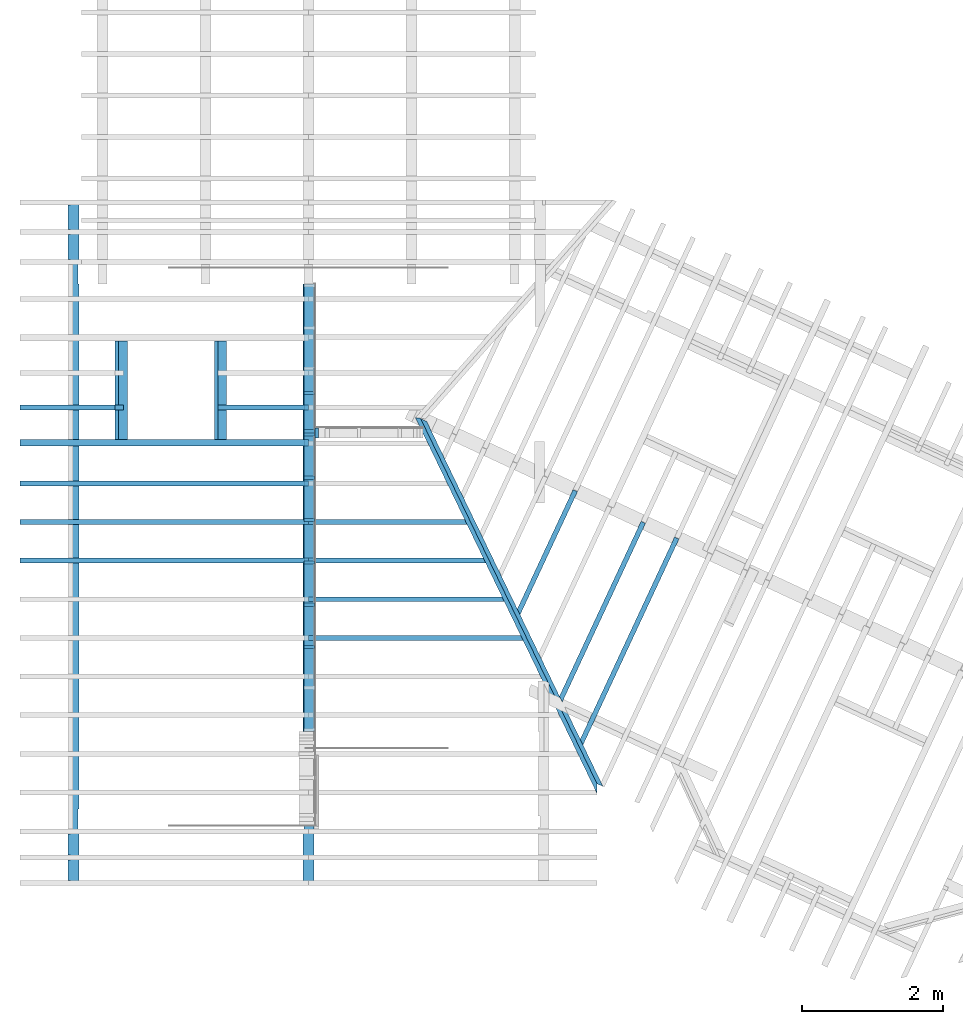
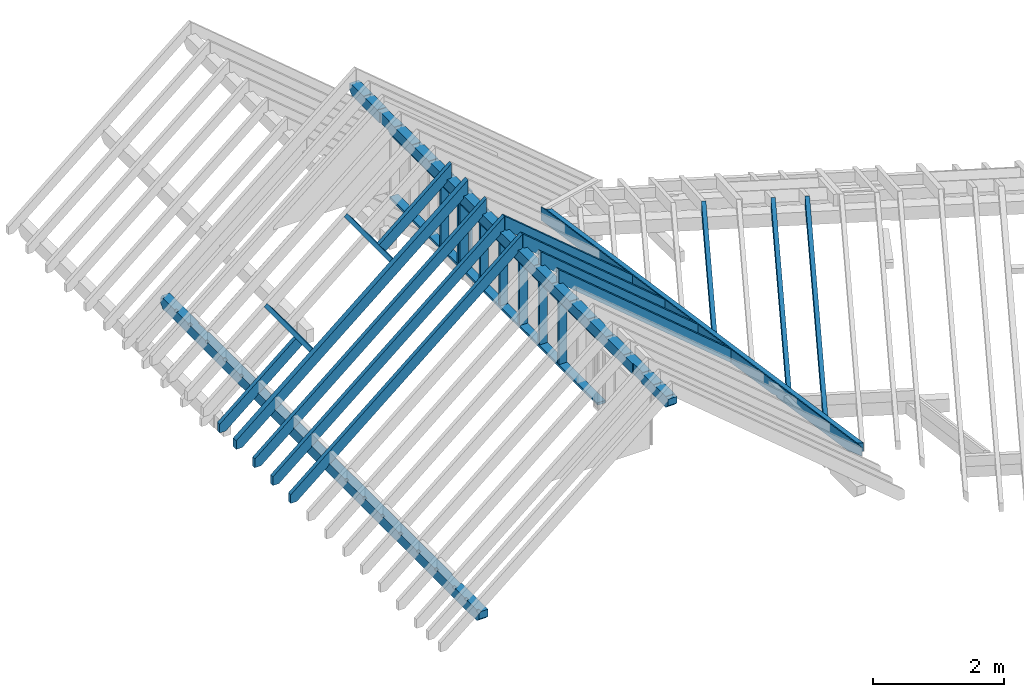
# One storey, part 2 of 11: 29 members.
"""IFC2X3 building model written with IfcOpenShell, lengths in metres."""

import ifcopenshell
import ifcopenshell.guid

model = None  # the IFC model being written
_history = None  # IfcOwnerHistory: only IFC2X3 demands one
_inside = {}  # id of a spatial element -> (the spatial element, [elements in it])
_under = {}  # id of a project, library or spatial element -> (it, [spatial elements below it])
_declared = {}  # id of a project -> (the project, [libraries it declares])
_typed = {}  # id of a type object -> (the type object, [elements of that type])
_made_of = {}  # id of a material, layer set ... -> (it, [elements and type objects made of it])


def new_model(schema):
    """Start an empty IFC model of exactly this schema.

    Asked for "IFC4X3", IfcOpenShell would pick the latest addendum, in which some entities
    have other attributes; the version numbers below select the first issue.
    IFC2X3 requires an IfcOwnerHistory on every rooted entity: one is made here for all.
    """
    global model, _history
    if schema == "IFC4X3":
        model = ifcopenshell.file(schema_version=(4, 3, 0, 0))
    else:
        model = ifcopenshell.file(schema=schema)
    _inside.clear()
    _under.clear()
    _declared.clear()
    _typed.clear()
    _made_of.clear()
    _history = None
    if model.schema == "IFC2X3":
        org = make("IfcOrganization", Name="unknown")
        user = make(
            "IfcPersonAndOrganization",
            ThePerson=make("IfcPerson", FamilyName="unknown"),
            TheOrganization=org,
        )
        app = make(
            "IfcApplication",
            ApplicationDeveloper=org,
            Version="unknown",
            ApplicationFullName="unknown",
            ApplicationIdentifier="unknown",
        )
        _history = make(
            "IfcOwnerHistory",
            OwningUser=user,
            OwningApplication=app,
            ChangeAction="ADDED",
            CreationDate=0,
        )
    return model


def make(cls, **values):
    """One entity of the class cls with the attributes given. An attribute that is None is left unset."""
    return model.create_entity(
        cls, **{name: value for name, value in values.items() if value is not None}
    )


def rooted(cls, **values):
    """An entity with a GlobalId (a new one), such as an element, a storey or a relation."""
    return make(cls, GlobalId=ifcopenshell.guid.new(), OwnerHistory=_history, **values)


def si_unit(unit_type, name, prefix=None):
    """IfcSIUnit, for example si_unit("LENGTHUNIT", "METRE", prefix="MILLI")."""
    return make("IfcSIUnit", UnitType=unit_type, Prefix=prefix, Name=name)


def assignment(units):
    """IfcUnitAssignment: the units of a project."""
    return None if units is None else make("IfcUnitAssignment", Units=units)


def point(xyz):
    """IfcCartesianPoint."""
    return None if xyz is None else make("IfcCartesianPoint", Coordinates=xyz)


def direction(xyz):
    """IfcDirection."""
    return None if xyz is None else make("IfcDirection", DirectionRatios=xyz)


def frame(location, z_axis=None, x_axis=None):
    """IfcAxis2Placement3D, a coordinate frame: its origin and axes. An axis left out is left unset."""
    return make(
        "IfcAxis2Placement3D",
        Location=point(location),
        Axis=direction(z_axis),
        RefDirection=direction(x_axis),
    )


def origin_with_axes():
    """The frame at (0, 0, 0) with the z axis (0, 0, 1) and the x axis (1, 0, 0) written out."""
    return frame((0.0, 0.0, 0.0), z_axis=(0.0, 0.0, 1.0), x_axis=(1.0, 0.0, 0.0))


def place(relative_to, where):
    """IfcLocalPlacement: puts the frame where relative to a parent placement (None: the world)."""
    return make(
        "IfcLocalPlacement", PlacementRelTo=relative_to, RelativePlacement=where
    )


def context(
    kind, dimensions, precision=None, world=None, true_north=None, identifier=None
):
    """IfcGeometricRepresentationContext, for example the 3D "Model" context."""
    return make(
        "IfcGeometricRepresentationContext",
        ContextIdentifier=identifier,
        ContextType=kind,
        CoordinateSpaceDimension=dimensions,
        Precision=precision,
        WorldCoordinateSystem=world,
        TrueNorth=true_north,
    )


def subcontext(parent, identifier, kind, view, scale=None):
    """IfcGeometricRepresentationSubContext, for example "Body" below "Model"."""
    return make(
        "IfcGeometricRepresentationSubContext",
        ContextIdentifier=identifier,
        ContextType=kind,
        ParentContext=parent,
        TargetScale=scale,
        TargetView=view,
    )


def project(units=None, contexts=None):
    """IfcProject with its units and contexts."""
    return rooted(
        "IfcProject",
        Name="project",
        RepresentationContexts=contexts,
        UnitsInContext=assignment(units),
    )


def spatial(cls, under=None, at=None, **own):
    """A site, building, storey or space (cls), placed at a placement, below another one or the project."""
    s = rooted(cls, ObjectPlacement=at, **own)
    if under is not None:
        _under.setdefault(under.id(), (under, []))[1].append(s)
    return s


def faces_of(points, faces, orient=None, outer=None):
    """IfcFace entities. A face is a list of loops; a loop is a list of indices into points, from 0.

    orient and outer hold one flag for each loop. By default every Orientation is true, the
    first loop of a face is its IfcFaceOuterBound and the others are IfcFaceBound.
    """
    made = []
    for i, loops in enumerate(faces):
        bounds = []
        for j, loop in enumerate(loops):
            is_outer = j == 0 if outer is None else outer[i][j]
            bounds.append(
                make(
                    "IfcFaceOuterBound" if is_outer else "IfcFaceBound",
                    Bound=make("IfcPolyLoop", Polygon=[points[k] for k in loop]),
                    Orientation=True if orient is None else orient[i][j],
                )
            )
        made.append(make("IfcFace", Bounds=bounds))
    return made


def faceted_brep(points, faces, orient=None, outer=None, voids=None):
    """IfcFacetedBrep: a solid bounded by flat faces; with voids (closed shells), ...WithVoids."""
    shared = [point(p) for p in points]
    hull = make("IfcClosedShell", CfsFaces=faces_of(shared, faces, orient, outer))
    if voids is None:
        return make("IfcFacetedBrep", Outer=hull)
    return make(
        "IfcFacetedBrepWithVoids",
        Outer=hull,
        Voids=[
            make(cls, CfsFaces=faces_of(shared, fs, o, b)) for cls, fs, o, b in voids
        ],
    )


def shape(context_of_items, identifier, shape_type, items):
    """IfcShapeRepresentation: the items that make up one representation, for example the "Body"."""
    return make(
        "IfcShapeRepresentation",
        ContextOfItems=context_of_items,
        RepresentationIdentifier=identifier,
        RepresentationType=shape_type,
        Items=items,
    )


def material(Name=None, Category=None):
    """IfcMaterial."""
    return make("IfcMaterial", Name=Name, Category=Category)


def made_of(thing, what):
    """Note that an element or type object is made of a material, layer set ...; save() writes the relation."""
    if what is not None:
        _made_of.setdefault(what.id(), (what, []))[1].append(thing)
    return thing


def element(
    cls,
    number,
    at=None,
    inside=None,
    cuts=None,
    type_object=None,
    material=None,
    context=None,
    identifier="Body",
    shape_type=None,
    held_by="IfcProductDefinitionShape",
    body=None,
    shapes=None,
    **own,
):
    """One element of the class cls, such as IfcWall. Its Tag is "e" and its number.

    at: its placement. inside: the storey or other place that contains it. cuts: it is an
    opening in that element (IfcRelVoidsElement). A single representation is given by context,
    identifier, shape_type and body (its items); several are given by shapes. held_by: the class
    of the entity that holds the representations. save() writes the other relations.
    """
    e = rooted(cls, Tag="e%d" % number, ObjectPlacement=at, **own)
    if body is not None:
        shapes = [shape(context, identifier, shape_type, body)]
    if shapes is not None:
        e.Representation = make(held_by, Representations=shapes)
    if inside is not None:
        _inside.setdefault(inside.id(), (inside, []))[1].append(e)
    if cuts is not None:
        rooted(
            "IfcRelVoidsElement", RelatingBuildingElement=cuts, RelatedOpeningElement=e
        )
    if type_object is not None:
        _typed.setdefault(type_object.id(), (type_object, []))[1].append(e)
    return made_of(e, material)


def aggregate(whole, parts):
    """IfcRelAggregates: a whole, such as a stair, and the parts it consists of."""
    return rooted("IfcRelAggregates", RelatingObject=whole, RelatedObjects=parts)


def save(model, path):
    """Write the relations noted so far, then the file.

    IfcRelAggregates (storeys below a building ...), IfcRelContainedInSpatialStructure (elements
    in a storey), IfcRelDefinesByType, IfcRelAssociatesMaterial and IfcRelDeclares: one each for
    every whole, place, type object, material and project.
    """
    for whole, parts in _under.values():
        aggregate(whole, parts)
    for where, things in _inside.values():
        rooted(
            "IfcRelContainedInSpatialStructure",
            RelatedElements=things,
            RelatingStructure=where,
        )
    for kind, things in _typed.values():
        rooted("IfcRelDefinesByType", RelatedObjects=things, RelatingType=kind)
    for what, things in _made_of.values():
        rooted("IfcRelAssociatesMaterial", RelatedObjects=things, RelatingMaterial=what)
    for by, libraries in _declared.values():
        rooted("IfcRelDeclares", RelatingContext=by, RelatedDefinitions=libraries)
    model.write(path)


model = new_model("IFC2X3")

# Units and contexts
model_context = context("Model", 3, precision=1e-06, world=origin_with_axes(), true_north=direction((0.0, 1.0, 0.0)))
body_context = subcontext(model_context, "Body", "Model", "MODEL_VIEW")
ifc_project = project(units=[si_unit("LENGTHUNIT", "METRE"), si_unit("AREAUNIT", "SQUARE_METRE"), si_unit("VOLUMEUNIT", "CUBIC_METRE"), si_unit("PLANEANGLEUNIT", "RADIAN")], contexts=[model_context])

# Site, building, storey
site_placement = place(None, origin_with_axes())
site = spatial("IfcSite", under=ifc_project, at=site_placement, CompositionType="ELEMENT")
building_placement = place(site_placement, origin_with_axes())
building = spatial("IfcBuilding", under=site, at=building_placement, Name="Building 1", CompositionType="ELEMENT")
storey_placement = place(building_placement, origin_with_axes())
storey = spatial("IfcBuildingStorey", under=building, at=storey_placement, Name="Comble et couverture", CompositionType="ELEMENT", Elevation=0.0)

# Members
ifc_material_1 = material(Name="NH II")
member_1_placement = place(storey_placement, frame((7.1531593, 4.790305, 5.8872191), z_axis=(-0.2113091, -0.4531539, 0.8660254), x_axis=(-0.3659982, -0.7848856, -0.5)))
element("IfcMember", 1, at=member_1_placement, inside=storey, material=ifc_material_1, Name="Chevron", context=body_context, shape_type="Brep", body=[
    faceted_brep([(0.1495072, 0.035, -0.096), (0.2044294, 0.035, -0.0643158), (0.2044294, -0.035, -0.0643158), (0.1495072, -0.035, -0.096), (0.2227223, 0.035, -0.096), (0.2227223, -0.035, -0.096), (2.2658431, -0.035, -0.096), (2.1549919, -0.035, 0.096), (0.0, -0.035, 0.096), (0.1108513, -0.035, -0.096), (2.3317987, 0.035, -0.096), (0.1108513, 0.035, -0.096), (0.0, 0.035, 0.096), (2.2209475, 0.035, 0.096)], [[[0, 1, 2, 3]], [[1, 4, 5, 2]], [[3, 2, 5, 6, 7, 8, 9]], [[5, 4, 10, 6]], [[0, 3, 9, 11]], [[12, 11, 9, 8]], [[1, 0, 11, 12, 13, 10, 4]], [[6, 10, 13, 7]], [[12, 8, 7, 13]]]),
])
member_2_placement = place(storey_placement, frame((0.025, 8.8681251, 4.1228151), z_axis=(0.0, 0.0, 1.0), x_axis=(0.0, -1.0, 0.0)))
element("IfcMember", 2, at=member_2_placement, inside=storey, material=ifc_material_1, Name="Panne", context=body_context, shape_type="Brep", body=[
    faceted_brep([(3.4845347, -0.0434868, 0.1), (3.3925347, -0.0434868, 0.1), (3.3925347, -0.08, 0.0693618), (3.4845347, -0.08, 0.0693618), (3.3925347, -0.08, 0.1), (3.4845347, -0.08, 0.1), (2.9795347, -0.0434868, 0.1), (2.9095347, -0.0434868, 0.1), (2.9095347, -0.08, 0.0693618), (2.9795347, -0.08, 0.0693618), (2.9095347, -0.08, 0.1), (2.9795347, -0.08, 0.1), (2.4855347, -0.08, 0.0693618), (2.4855347, -0.08, 0.1), (2.4855347, -0.0434868, 0.1), (2.4155347, -0.08, 0.1), (2.4155347, -0.08, 0.0693618), (2.4155347, -0.0434868, 0.1), (2.0025347, -0.0434868, 0.1), (1.9105347, -0.0434868, 0.1), (1.9105347, -0.08, 0.0693618), (2.0025347, -0.08, 0.0693618), (1.9105347, -0.08, 0.1), (2.0025347, -0.08, 0.1), (8.9141251, 0.06, -0.1), (8.6341251, 0.06, -0.1), (8.6341251, 0.06, 0.1), (8.9141251, 0.06, 0.1), (1.1941251, 0.06, -0.1), (0.9141251, 0.06, -0.1), (0.9141251, 0.06, 0.1), (1.1941251, 0.06, 0.1), (0.4915626, -0.0434868, 0.1), (0.4215626, -0.0434868, 0.1), (0.4215626, -0.08, 0.0693618), (0.4915626, -0.08, 0.0693618), (0.4215626, -0.08, 0.1), (0.4915626, -0.08, 0.1), (0.0666667, 0.08, -0.1), (0.0666667, -0.08, -0.1), (0.0, -0.08, -0.0333333), (0.0, 0.08, -0.0333333), (0.0, -0.08, 0.0693618), (0.0, -0.0434868, 0.1), (0.0, 0.08, 0.1), (0.07, -0.0434868, 0.1), (0.07, -0.08, 0.0693618), (0.07, -0.08, 0.1), (9.3500626, -0.0434868, 0.1), (9.2800626, -0.0434868, 0.1), (9.2800626, -0.08, 0.0693618), (9.3500626, -0.08, 0.0693618), (9.2800626, -0.08, 0.1), (9.3500626, -0.08, 0.1), (9.715, -0.08, -0.0333333), (9.6483333, -0.08, -0.1), (9.6483333, 0.08, -0.1), (9.715, 0.08, -0.0333333), (9.715, 0.08, 0.1), (9.715, -0.0434868, 0.1), (9.715, -0.08, 0.0693618), (9.645, -0.0434868, 0.1), (9.645, -0.08, 0.0693618), (9.645, -0.08, 0.1), (1.1941251, 0.08, -0.1), (1.1941251, 0.08, 0.1), (0.9141251, 0.08, 0.1), (0.9141251, 0.08, -0.1), (8.6341251, 0.08, -0.1), (8.9141251, 0.08, -0.1), (8.6341251, 0.08, 0.1), (8.9141251, 0.08, 0.1), (3.98113, -0.08, 0.1), (1.4373299, -0.08, 0.1), (1.4373299, -0.08, 0.0693618), (1.3673299, -0.08, 0.0693618), (1.3673299, -0.08, 0.1), (0.9131251, -0.08, 0.1), (0.9131251, -0.08, 0.0693618), (0.8431251, -0.08, 0.0693618), (0.8431251, -0.08, 0.1), (8.9851251, -0.08, 0.1), (8.9851251, -0.08, 0.0693618), (8.9151251, -0.08, 0.0693618), (8.9151251, -0.08, 0.1), (8.4347111, -0.08, 0.1), (8.4347111, -0.08, 0.0693618), (8.3647111, -0.08, 0.0693618), (8.3647111, -0.08, 0.1), (7.884297, -0.08, 0.1), (7.884297, -0.08, 0.0693618), (7.814297, -0.08, 0.0693618), (7.814297, -0.08, 0.1), (7.3367017, -0.08, 0.1), (7.3367017, -0.08, 0.0693618), (7.2667017, -0.08, 0.0693618), (7.2667017, -0.08, 0.1), (6.7891064, -0.08, 0.1), (6.7891064, -0.08, 0.0693618), (6.7191064, -0.08, 0.0693618), (6.7191064, -0.08, 0.1), (6.2415111, -0.08, 0.1), (6.2415111, -0.08, 0.0693618), (6.1715111, -0.08, 0.0693618), (6.1715111, -0.08, 0.1), (5.6939158, -0.08, 0.1), (5.6939158, -0.08, 0.0693618), (5.6239158, -0.08, 0.0693618), (5.6239158, -0.08, 0.1), (5.1463205, -0.08, 0.1), (5.1463205, -0.08, 0.0693618), (5.0763205, -0.08, 0.0693618), (5.0763205, -0.08, 0.1), (4.5987253, -0.08, 0.1), (4.5987253, -0.08, 0.0693618), (4.5287253, -0.08, 0.0693618), (4.5287253, -0.08, 0.1), (4.05113, -0.08, 0.1), (4.05113, -0.08, 0.0693618), (3.98113, -0.08, 0.0693618), (0.9131251, -0.0434868, 0.1), (0.8431251, -0.0434868, 0.1), (8.9851251, -0.0434868, 0.1), (8.9151251, -0.0434868, 0.1), (8.4347111, -0.0434868, 0.1), (8.3647111, -0.0434868, 0.1), (7.884297, -0.0434868, 0.1), (7.814297, -0.0434868, 0.1), (1.4373299, -0.0434868, 0.1), (1.3673299, -0.0434868, 0.1), (7.3367017, -0.0434868, 0.1), (7.2667017, -0.0434868, 0.1), (6.7891064, -0.0434868, 0.1), (6.7191064, -0.0434868, 0.1), (6.2415111, -0.0434868, 0.1), (6.1715111, -0.0434868, 0.1), (5.6939158, -0.0434868, 0.1), (5.6239158, -0.0434868, 0.1), (5.1463205, -0.0434868, 0.1), (5.0763205, -0.0434868, 0.1), (4.5987253, -0.0434868, 0.1), (4.5287253, -0.0434868, 0.1), (4.05113, -0.0434868, 0.1), (3.98113, -0.0434868, 0.1)], [[[0, 1, 2, 3]], [[1, 4, 2]], [[5, 0, 3]], [[6, 7, 8, 9]], [[7, 10, 8]], [[11, 6, 9]], [[12, 13, 14]], [[15, 16, 17]], [[16, 12, 14, 17]], [[18, 19, 20, 21]], [[19, 22, 20]], [[23, 18, 21]], [[24, 25, 26, 27]], [[28, 29, 30, 31]], [[32, 33, 34, 35]], [[33, 36, 34]], [[37, 32, 35]], [[38, 39, 40, 41]], [[41, 40, 42, 43, 44]], [[45, 43, 42, 46]], [[47, 45, 46]], [[48, 49, 50, 51]], [[49, 52, 50]], [[53, 48, 51]], [[54, 55, 56, 57]], [[54, 57, 58, 59, 60]], [[59, 61, 62, 60]], [[61, 63, 62]], [[64, 28, 31, 65]], [[66, 30, 29, 67]], [[55, 39, 38, 67, 29, 28, 64, 68, 25, 24, 69, 56]], [[64, 65, 70, 68]], [[69, 24, 27, 71]], [[70, 26, 25, 68]], [[71, 58, 57, 56, 69]], [[72, 5, 3, 2, 4, 11, 9, 8, 10, 13, 12, 16, 15, 23, 21, 20, 22, 73, 74, 75, 76, 77, 78, 79, 80, 37, 35, 34, 36, 47, 46, 42, 40, 39, 55, 54, 60, 62, 63, 53, 51, 50, 52, 81, 82, 83, 84, 85, 86, 87, 88, 89, 90, 91, 92, 93, 94, 95, 96, 97, 98, 99, 100, 101, 102, 103, 104, 105, 106, 107, 108, 109, 110, 111, 112, 113, 114, 115, 116, 117, 118, 119]], [[77, 120, 78]], [[121, 80, 79]], [[120, 121, 79, 78]], [[81, 122, 82]], [[123, 84, 83]], [[122, 123, 83, 82]], [[85, 124, 86]], [[125, 88, 87]], [[124, 125, 87, 86]], [[89, 126, 90]], [[127, 92, 91]], [[126, 127, 91, 90]], [[73, 128, 74]], [[129, 76, 75]], [[128, 129, 75, 74]], [[93, 130, 94]], [[131, 96, 95]], [[130, 131, 95, 94]], [[97, 132, 98]], [[133, 100, 99]], [[132, 133, 99, 98]], [[101, 134, 102]], [[135, 104, 103]], [[134, 135, 103, 102]], [[105, 136, 106]], [[137, 108, 107]], [[136, 137, 107, 106]], [[109, 138, 110]], [[139, 112, 111]], [[138, 139, 111, 110]], [[113, 140, 114]], [[141, 116, 115]], [[140, 141, 115, 114]], [[117, 142, 118]], [[143, 72, 119]], [[142, 143, 119, 118]], [[67, 38, 41, 44, 66]], [[1, 0, 5, 72, 143, 142, 117, 116, 141, 140, 113, 112, 139, 138, 109, 108, 137, 136, 105, 104, 135, 134, 101, 100, 133, 132, 97, 96, 131, 130, 93, 92, 127, 126, 89, 88, 125, 124, 85, 84, 123, 122, 81, 52, 49, 48, 53, 63, 61, 59, 58, 71, 27, 26, 70, 65, 31, 30, 66, 44, 43, 45, 47, 36, 33, 32, 37, 80, 121, 120, 77, 76, 129, 128, 73, 22, 19, 18, 23, 15, 17, 14, 13, 10, 7, 6, 11, 4]]]),
])
member_3_placement = place(storey_placement, frame((3.294711, 3.7568046, 7.2275995), z_axis=(0.6427876, 0.0, 0.7660444), x_axis=(0.7660444, 0.0, -0.6427876)))
element("IfcMember", 3, at=member_3_placement, inside=storey, material=ifc_material_1, Name="Chevron", context=body_context, shape_type="Brep", body=[
    faceted_brep([(0.2078259, 0.035, -0.096), (0.2397786, 0.035, -0.0691884), (0.2397786, -0.035, -0.0691884), (0.2078259, -0.035, -0.096), (0.2622762, 0.035, -0.096), (0.2622762, -0.035, -0.096), (3.4349728, -0.035, -0.096), (3.2738656, -0.035, 0.096), (0.0, -0.035, 0.096), (0.1611071, -0.035, -0.096), (3.3908263, 0.035, -0.096), (0.1611071, 0.035, -0.096), (3.2297192, 0.035, 0.096), (0.0, 0.035, 0.096)], [[[0, 1, 2, 3]], [[1, 4, 5, 2]], [[3, 2, 5, 6, 7, 8, 9]], [[5, 4, 10, 6]], [[0, 3, 9, 11]], [[10, 12, 7, 6]], [[7, 12, 13, 8]], [[1, 0, 11, 13, 12, 10, 4]], [[8, 13, 11, 9]]]),
])
member_4_placement = place(storey_placement, frame((2.1070699, 6.8655905, 6.131688), z_axis=(-0.6427876, 0.0, 0.7660444), x_axis=(0.0, -1.0, 0.0)))
element("IfcMember", 4, at=member_4_placement, inside=storey, material=ifc_material_1, Name="Chevetre", context=body_context, shape_type="Brep", body=[
    faceted_brep([(1.39, 0.035, -0.096), (1.39, 0.035, 0.096), (1.39, -0.035, 0.096), (1.39, -0.035, -0.096), (0.0, 0.035, 0.096), (0.0, 0.035, -0.096), (0.0, -0.035, -0.096), (0.0, -0.035, 0.096)], [[[0, 1, 2, 3]], [[4, 5, 6, 7]], [[3, 6, 5, 0]], [[2, 7, 6, 3]], [[1, 4, 7, 2]], [[0, 5, 4, 1]]]),
])
member_5_placement = place(storey_placement, frame((3.294711, 3.2092093, 7.2275995), z_axis=(0.6427876, 0.0, 0.7660444), x_axis=(0.7660444, 0.0, -0.6427876)))
element("IfcMember", 5, at=member_5_placement, inside=storey, material=ifc_material_1, Name="Chevron", context=body_context, shape_type="Brep", body=[
    faceted_brep([(0.2078259, 0.035, -0.096), (0.2397786, 0.035, -0.0691884), (0.2397786, -0.035, -0.0691884), (0.2078259, -0.035, -0.096), (0.2622762, 0.035, -0.096), (0.2622762, -0.035, -0.096), (3.780321, -0.035, -0.096), (3.6192139, -0.035, 0.096), (0.0, -0.035, 0.096), (0.1611071, -0.035, -0.096), (3.7361746, 0.035, -0.096), (0.1611071, 0.035, -0.096), (3.5750674, 0.035, 0.096), (0.0, 0.035, 0.096)], [[[0, 1, 2, 3]], [[1, 4, 5, 2]], [[3, 2, 5, 6, 7, 8, 9]], [[5, 4, 10, 6]], [[0, 3, 9, 11]], [[10, 12, 7, 6]], [[7, 12, 13, 8]], [[1, 0, 11, 13, 12, 10, 4]], [[8, 13, 11, 9]]]),
])
ifc_material_2 = material(Name="Epicéa C24")
member_6_placement = place(storey_placement, frame((3.3635, 5.5901088, 6.7854713), z_axis=(-1.0, 0.0, 0.0), x_axis=(0.0, 0.0, -1.0)))
element("IfcMember", 6, at=member_6_placement, inside=storey, material=ifc_material_2, Name="Montant", context=body_context, shape_type="Brep", body=[
    faceted_brep([(1.16, -0.0225, -0.0725), (1.16, -0.0225, 0.0725), (0.0, -0.0225, 0.0725), (0.0, -0.0225, -0.0725), (1.16, 0.0225, 0.0725), (0.0, 0.0225, 0.0725), (1.16, 0.0225, -0.0725), (0.0, 0.0225, -0.0725)], [[[0, 1, 2, 3]], [[1, 4, 5, 2]], [[4, 6, 7, 5]], [[6, 0, 3, 7]], [[0, 6, 4, 1]], [[2, 5, 7, 3]]]),
])
member_7_placement = place(storey_placement, frame((8.5916553, 4.1195233, 5.8872902), z_axis=(-0.2113091, -0.4531539, 0.8660254), x_axis=(-0.3659982, -0.7848856, -0.5)))
element("IfcMember", 7, at=member_7_placement, inside=storey, material=ifc_material_1, Name="Chevron", context=body_context, shape_type="Brep", body=[
    faceted_brep([(0.2227223, -0.035, -0.096), (0.2044294, -0.035, -0.0643158), (0.2044294, 0.035, -0.0643158), (0.2227223, 0.035, -0.096), (0.1496929, -0.035, -0.096), (0.1496929, 0.035, -0.096), (0.1108513, -0.035, -0.096), (0.1108513, 0.035, -0.096), (3.8272994, 0.035, -0.096), (3.7613438, -0.035, -0.096), (0.0, 0.035, 0.096), (3.7164481, 0.035, 0.096), (0.0, -0.035, 0.096), (3.6504925, -0.035, 0.096)], [[[0, 1, 2, 3]], [[1, 4, 5, 2]], [[5, 4, 6, 7]], [[0, 3, 8, 9]], [[3, 2, 5, 7, 10, 11, 8]], [[6, 12, 10, 7]], [[10, 12, 13, 11]], [[1, 0, 9, 13, 12, 6, 4]], [[11, 13, 9, 8]]]),
])
member_8_placement = place(storey_placement, frame((3.4131263, 3.7568046, 7.2275995), z_axis=(-0.6427876, 0.0, 0.7660444), x_axis=(-0.7660444, 0.0, -0.6427876)))
element("IfcMember", 8, at=member_8_placement, inside=storey, material=ifc_material_1, Name="Chevron", context=body_context, shape_type="Brep", body=[
    faceted_brep([(5.4354375, -0.035, -0.0265671), (5.4354375, 0.035, -0.0265671), (5.3325915, 0.035, 0.096), (5.3325915, -0.035, 0.096), (5.3526906, 0.035, -0.096), (0.2622762, 0.035, -0.096), (0.2397786, 0.035, -0.0691884), (0.2078259, 0.035, -0.096), (0.1611071, 0.035, -0.096), (0.0, 0.035, 0.096), (5.3526906, -0.035, -0.096), (0.2622762, -0.035, -0.096), (0.0, -0.035, 0.096), (0.1611071, -0.035, -0.096), (0.2078259, -0.035, -0.096), (0.2397786, -0.035, -0.0691884)], [[[0, 1, 2, 3]], [[2, 1, 4, 5, 6, 7, 8, 9]], [[1, 0, 10, 4]], [[4, 10, 11, 5]], [[0, 3, 12, 13, 14, 15, 11, 10]], [[3, 2, 9, 12]], [[7, 6, 15, 14]], [[6, 5, 11, 15]], [[7, 14, 13, 8]], [[13, 12, 9, 8]]]),
])
member_9_placement = place(storey_placement, frame((3.3635, 3.7308281, 6.7854713), z_axis=(1.0, 0.0, 0.0), x_axis=(0.0, 0.0, -1.0)))
element("IfcMember", 9, at=member_9_placement, inside=storey, material=ifc_material_2, Name="Montant", context=body_context, shape_type="Brep", body=[
    faceted_brep([(1.16, -0.0225, -0.0725), (1.16, 0.0225, -0.0725), (1.16, 0.0225, 0.0725), (1.16, -0.0225, 0.0725), (0.0, 0.0225, -0.0725), (0.0, 0.0225, 0.0725), (0.0, -0.0225, -0.0725), (0.0, -0.0225, 0.0725)], [[[0, 1, 2, 3]], [[2, 1, 4, 5]], [[1, 0, 6, 4]], [[0, 3, 7, 6]], [[3, 2, 5, 7]], [[7, 5, 4, 6]]]),
])
member_10_placement = place(storey_placement, frame((3.3635, 5.5451088, 6.7854713), z_axis=(-1.0, 0.0, 0.0), x_axis=(0.0, 0.0, -1.0)))
element("IfcMember", 10, at=member_10_placement, inside=storey, material=ifc_material_2, Name="Montant", context=body_context, shape_type="Brep", body=[
    faceted_brep([(1.16, -0.0225, -0.0725), (1.16, -0.0225, 0.0725), (0.0, -0.0225, 0.0725), (0.0, -0.0225, -0.0725), (1.16, 0.0225, 0.0725), (0.0, 0.0225, 0.0725), (1.16, 0.0225, -0.0725), (0.0, 0.0225, -0.0725)], [[[0, 1, 2, 3]], [[1, 4, 5, 2]], [[4, 6, 7, 5]], [[6, 0, 3, 7]], [[0, 6, 4, 1]], [[2, 5, 7, 3]]]),
])
member_11_placement = place(storey_placement, frame((0.6975481, 6.8655905, 4.9489588), z_axis=(-0.6427876, 0.0, 0.7660444), x_axis=(0.0, -1.0, 0.0)))
element("IfcMember", 11, at=member_11_placement, inside=storey, material=ifc_material_1, Name="Chevetre", context=body_context, shape_type="Brep", body=[
    faceted_brep([(1.39, 0.035, -0.096), (1.39, 0.035, 0.096), (1.39, -0.035, 0.096), (1.39, -0.035, -0.096), (0.0, 0.035, 0.096), (0.0, 0.035, -0.096), (0.0, -0.035, -0.096), (0.0, -0.035, 0.096)], [[[0, 1, 2, 3]], [[4, 5, 6, 7]], [[3, 6, 5, 0]], [[2, 7, 6, 3]], [[1, 4, 7, 2]], [[0, 5, 4, 1]]]),
])
member_12_placement = place(storey_placement, frame((3.3635, 3.1308281, 6.7854713), z_axis=(1.0, 0.0, 0.0), x_axis=(0.0, 0.0, -1.0)))
element("IfcMember", 12, at=member_12_placement, inside=storey, material=ifc_material_2, Name="Montant", context=body_context, shape_type="Brep", body=[
    faceted_brep([(1.16, -0.0225, -0.0725), (1.16, 0.0225, -0.0725), (1.16, 0.0225, 0.0725), (1.16, -0.0225, 0.0725), (0.0, 0.0225, -0.0725), (0.0, 0.0225, 0.0725), (0.0, -0.0225, -0.0725), (0.0, -0.0225, 0.0725)], [[[0, 1, 2, 3]], [[2, 1, 4, 5]], [[1, 0, 6, 4]], [[0, 3, 7, 6]], [[3, 2, 5, 7]], [[7, 5, 4, 6]]]),
])
member_13_placement = place(storey_placement, frame((3.4705, 5.5627176, 6.9854713), z_axis=(0.0, 1.0, 0.0), x_axis=(0.0, 0.0, -1.0)))
element("IfcMember", 13, at=member_13_placement, inside=storey, material=ifc_material_2, Name="Montant", context=body_context, shape_type="Brep", body=[
    faceted_brep([(1.441166, -0.0225, -0.0725), (1.441166, -0.0225, 0.0725), (0.0, -0.0225, 0.0725), (0.0, -0.0225, -0.0725), (1.441166, 0.0225, 0.0725), (0.0, 0.0225, 0.0725), (1.441166, 0.0225, -0.0725), (0.0, 0.0225, -0.0725)], [[[0, 1, 2, 3]], [[1, 4, 5, 2]], [[4, 6, 7, 5]], [[6, 0, 3, 7]], [[0, 6, 4, 1]], [[2, 5, 7, 3]]]),
])
member_14_placement = place(storey_placement, frame((3.3539187, 8.8681251, 6.9304713), z_axis=(0.0, 0.0, 1.0), x_axis=(0.0, -1.0, 0.0)))
element("IfcMember", 14, at=member_14_placement, inside=storey, material=ifc_material_1, Name="Panne", context=body_context, shape_type="Brep", body=[
    faceted_brep([(2.0025347, -0.08, 0.09), (2.0025347, 0.08, 0.09), (1.9105347, 0.08, 0.09), (1.9105347, -0.08, 0.09), (2.0025347, -0.08, 0.1), (2.0025347, 0.08, 0.1), (1.9105347, -0.08, 0.1), (1.9105347, 0.08, 0.1), (2.4855347, -0.08, 0.09), (2.4855347, 0.08, 0.09), (2.4155347, 0.08, 0.09), (2.4155347, -0.08, 0.09), (2.4855347, -0.08, 0.1), (2.4855347, 0.08, 0.1), (2.4155347, -0.08, 0.1), (2.4155347, 0.08, 0.1), (3.4845347, 0.08, 0.09), (3.3925347, 0.08, 0.09), (3.3925347, -0.08, 0.09), (3.4845347, -0.08, 0.09), (3.4845347, -0.08, 0.1), (3.4845347, 0.08, 0.1), (3.3925347, -0.08, 0.1), (3.3925347, 0.08, 0.1), (2.9795347, -0.08, 0.09), (2.9795347, 0.08, 0.09), (2.9095347, 0.08, 0.09), (2.9095347, -0.08, 0.09), (2.9795347, -0.08, 0.1), (2.9795347, 0.08, 0.1), (2.9095347, -0.08, 0.1), (2.9095347, 0.08, 0.1), (0.9141251, -0.08, 0.1), (0.9141251, -0.0649187, 0.1), (1.1941251, -0.065, 0.1), (1.1941251, -0.08, 0.1), (1.3673299, -0.08, 0.1), (1.3673299, 0.08, 0.1), (1.1941251, 0.08, 0.1), (1.1941251, 0.065, 0.1), (0.9141251, 0.0650813, 0.1), (0.9141251, 0.08, 0.1), (0.9131251, 0.08, 0.1), (0.9131251, -0.08, 0.1), (1.1941251, 0.08, -0.1), (1.1941251, 0.065, -0.1), (0.9141251, 0.0650813, -0.1), (0.9141251, 0.08, -0.1), (0.9141251, -0.0649187, -0.1), (0.9141251, -0.08, -0.1), (0.0666667, -0.08, -0.1), (0.0666667, 0.08, -0.1), (7.533297, 0.08, -0.1), (7.533297, 0.065, -0.1), (7.813297, 0.065, -0.1), (7.813297, 0.08, -0.1), (9.6483333, 0.08, -0.1), (9.6483333, -0.08, -0.1), (8.9141251, -0.08, -0.1), (8.9141251, -0.065, -0.1), (8.6341251, -0.065, -0.1), (8.6341251, -0.08, -0.1), (1.1941251, -0.08, -0.1), (1.1941251, -0.065, -0.1), (1.4373299, 0.08, 0.1), (3.98113, 0.08, 0.1), (3.98113, 0.08, 0.09), (4.05113, 0.08, 0.09), (4.05113, 0.08, 0.1), (4.5287253, 0.08, 0.1), (4.5287253, 0.08, 0.09), (4.5987253, 0.08, 0.09), (4.5987253, 0.08, 0.1), (5.0763205, 0.08, 0.1), (5.0763205, 0.08, 0.09), (5.1463205, 0.08, 0.09), (5.1463205, 0.08, 0.1), (5.6239158, 0.08, 0.1), (5.6239158, 0.08, 0.09), (5.6939158, 0.08, 0.09), (5.6939158, 0.08, 0.1), (6.1715111, 0.08, 0.1), (6.1715111, 0.08, 0.09), (6.2415111, 0.08, 0.09), (6.2415111, 0.08, 0.1), (6.7191064, 0.08, 0.1), (6.7191064, 0.08, 0.09), (6.7891064, 0.08, 0.09), (6.7891064, 0.08, 0.1), (7.2667017, 0.08, 0.1), (7.2667017, 0.08, 0.09), (7.3367017, 0.08, 0.09), (7.3367017, 0.08, 0.1), (7.533297, 0.08, 0.1), (1.3673299, 0.08, 0.09), (1.4373299, 0.08, 0.09), (0.9131251, -0.08, 0.09), (0.8431251, -0.08, 0.09), (0.8431251, -0.08, 0.1), (0.4915626, -0.08, 0.1), (0.4915626, -0.08, 0.09), (0.4215626, -0.08, 0.09), (0.4215626, -0.08, 0.1), (0.07, -0.08, 0.1), (0.07, -0.08, 0.09), (0.0, -0.08, 0.09), (0.0, -0.08, -0.0333333), (7.813297, 0.065, 0.1), (7.813297, 0.08, 0.1), (7.533297, 0.065, 0.1), (7.814297, 0.08, 0.1), (7.814297, 0.08, 0.09), (7.884297, 0.08, 0.09), (7.884297, 0.08, 0.1), (8.3647111, 0.08, 0.1), (8.3647111, 0.08, 0.09), (8.4347111, 0.08, 0.09), (8.4347111, 0.08, 0.1), (8.9151251, 0.08, 0.1), (8.9151251, 0.08, 0.09), (8.9851251, 0.08, 0.09), (8.9851251, 0.08, 0.1), (9.2800626, 0.08, 0.1), (9.2800626, 0.08, 0.09), (9.3500626, 0.08, 0.09), (9.3500626, 0.08, 0.1), (9.645, 0.08, 0.1), (9.645, 0.08, 0.09), (9.715, 0.08, 0.09), (9.715, 0.08, -0.0333333), (8.9141251, -0.065, 0.1), (8.6341251, -0.065, 0.1), (8.6341251, -0.08, 0.1), (8.9141251, -0.08, 0.1), (1.4373299, -0.08, 0.1), (1.4373299, -0.08, 0.09), (1.3673299, -0.08, 0.09), (8.4347111, -0.08, 0.1), (8.4347111, -0.08, 0.09), (8.3647111, -0.08, 0.09), (8.3647111, -0.08, 0.1), (7.884297, -0.08, 0.1), (7.884297, -0.08, 0.09), (7.814297, -0.08, 0.09), (7.814297, -0.08, 0.1), (7.3367017, -0.08, 0.1), (7.3367017, -0.08, 0.09), (7.2667017, -0.08, 0.09), (7.2667017, -0.08, 0.1), (6.7891064, -0.08, 0.1), (6.7891064, -0.08, 0.09), (6.7191064, -0.08, 0.09), (6.7191064, -0.08, 0.1), (6.2415111, -0.08, 0.1), (6.2415111, -0.08, 0.09), (6.1715111, -0.08, 0.09), (6.1715111, -0.08, 0.1), (5.6939158, -0.08, 0.1), (5.6939158, -0.08, 0.09), (5.6239158, -0.08, 0.09), (5.6239158, -0.08, 0.1), (5.1463205, -0.08, 0.1), (5.1463205, -0.08, 0.09), (5.0763205, -0.08, 0.09), (5.0763205, -0.08, 0.1), (4.5987253, -0.08, 0.1), (4.5987253, -0.08, 0.09), (4.5287253, -0.08, 0.09), (4.5287253, -0.08, 0.1), (4.05113, -0.08, 0.1), (4.05113, -0.08, 0.09), (3.98113, -0.08, 0.09), (3.98113, -0.08, 0.1), (8.9151251, -0.08, 0.1), (0.0, 0.08, -0.0333333), (9.715, -0.08, -0.0333333), (9.715, -0.08, 0.09), (9.645, -0.08, 0.09), (9.645, -0.08, 0.1), (9.3500626, -0.08, 0.1), (9.3500626, -0.08, 0.09), (9.2800626, -0.08, 0.09), (9.2800626, -0.08, 0.1), (8.9851251, -0.08, 0.1), (8.9851251, -0.08, 0.09), (8.9151251, -0.08, 0.09), (0.0, 0.08, 0.09), (0.07, 0.08, 0.1), (0.4215626, 0.08, 0.1), (0.4915626, 0.08, 0.1), (0.8431251, 0.08, 0.1), (0.07, 0.08, 0.09), (0.4215626, 0.08, 0.09), (0.4915626, 0.08, 0.09), (0.8431251, 0.08, 0.09), (0.9131251, 0.08, 0.09)], [[[0, 1, 2, 3]], [[0, 4, 5, 1]], [[6, 3, 2, 7]], [[8, 9, 10, 11]], [[8, 12, 13, 9]], [[14, 11, 10, 15]], [[16, 17, 18, 19]], [[19, 20, 21, 16]], [[22, 18, 17, 23]], [[24, 25, 26, 27]], [[24, 28, 29, 25]], [[30, 27, 26, 31]], [[32, 33, 34, 35, 36, 37, 38, 39, 40, 41, 42, 43]], [[44, 45, 39, 38]], [[45, 46, 40, 39]], [[46, 47, 41, 40]], [[48, 49, 50, 51, 47, 46, 45, 44, 52, 53, 54, 55, 56, 57, 58, 59, 60, 61, 62, 63]], [[64, 7, 2, 1, 5, 15, 10, 9, 13, 31, 26, 25, 29, 23, 17, 16, 21, 65, 66, 67, 68, 69, 70, 71, 72, 73, 74, 75, 76, 77, 78, 79, 80, 81, 82, 83, 84, 85, 86, 87, 88, 89, 90, 91, 92, 93, 52, 44, 38, 37, 94, 95]], [[49, 48, 33, 32]], [[48, 63, 34, 33]], [[63, 62, 35, 34]], [[49, 32, 43, 96, 97, 98, 99, 100, 101, 102, 103, 104, 105, 106, 50]], [[55, 54, 107, 108]], [[54, 53, 109, 107]], [[53, 52, 93, 109]], [[55, 108, 110, 111, 112, 113, 114, 115, 116, 117, 118, 119, 120, 121, 122, 123, 124, 125, 126, 127, 128, 129, 56]], [[60, 59, 130, 131]], [[61, 60, 131, 132]], [[59, 58, 133, 130]], [[0, 3, 6, 134, 135, 136, 36, 35, 62, 61, 132, 137, 138, 139, 140, 141, 142, 143, 144, 145, 146, 147, 148, 149, 150, 151, 152, 153, 154, 155, 156, 157, 158, 159, 160, 161, 162, 163, 164, 165, 166, 167, 168, 169, 170, 171, 172, 20, 19, 18, 22, 28, 24, 27, 30, 12, 8, 11, 14, 4]], [[132, 131, 130, 133, 173, 118, 117, 137]], [[51, 50, 106, 174]], [[133, 58, 57, 175, 176, 177, 178, 179, 180, 181, 182, 183, 184, 185, 173]], [[175, 57, 56, 129]], [[174, 106, 105, 186]], [[187, 103, 102, 188]], [[189, 99, 98, 190]], [[134, 6, 7, 64]], [[4, 14, 15, 5]], [[41, 47, 51, 174, 186, 191, 187, 188, 192, 193, 189, 190, 194, 195, 42]], [[13, 12, 30, 31]], [[23, 29, 28, 22]], [[65, 21, 20, 172]], [[68, 169, 168, 69]], [[72, 165, 164, 73]], [[76, 161, 160, 77]], [[80, 157, 156, 81]], [[84, 153, 152, 85]], [[88, 149, 148, 89]], [[109, 93, 92, 145, 144, 110, 108, 107]], [[113, 141, 140, 114]], [[121, 183, 182, 122]], [[125, 179, 178, 126]], [[42, 195, 96, 43]], [[194, 97, 96, 195]], [[194, 190, 98, 97]], [[189, 193, 100, 99]], [[192, 101, 100, 193]], [[192, 188, 102, 101]], [[125, 124, 180, 179]], [[123, 181, 180, 124]], [[123, 122, 182, 181]], [[178, 177, 127, 126]], [[176, 128, 127, 177]], [[121, 120, 184, 183]], [[119, 185, 184, 120]], [[119, 118, 173, 185]], [[140, 139, 115, 114]], [[138, 116, 115, 139]], [[138, 137, 117, 116]], [[113, 112, 142, 141]], [[111, 143, 142, 112]], [[111, 110, 144, 143]], [[134, 64, 95, 135]], [[135, 95, 94, 136]], [[37, 36, 136, 94]], [[92, 91, 146, 145]], [[90, 147, 146, 91]], [[90, 89, 148, 147]], [[88, 87, 150, 149]], [[86, 151, 150, 87]], [[86, 85, 152, 151]], [[84, 83, 154, 153]], [[82, 155, 154, 83]], [[82, 81, 156, 155]], [[80, 79, 158, 157]], [[78, 159, 158, 79]], [[78, 77, 160, 159]], [[76, 75, 162, 161]], [[74, 163, 162, 75]], [[74, 73, 164, 163]], [[72, 71, 166, 165]], [[70, 167, 166, 71]], [[70, 69, 168, 167]], [[68, 67, 170, 169]], [[66, 171, 170, 67]], [[66, 65, 172, 171]], [[103, 187, 191, 104]], [[104, 191, 186, 105]], [[175, 129, 128, 176]]]),
])
member_15_placement = place(storey_placement, frame((8.1167713, 4.3410209, 5.887274), z_axis=(-0.2113091, -0.4531539, 0.8660254), x_axis=(-0.3659982, -0.7848856, -0.5)))
element("IfcMember", 15, at=member_15_placement, inside=storey, material=ifc_material_1, Name="Chevron", context=body_context, shape_type="Brep", body=[
    faceted_brep([(3.2676771, -0.035, -0.096), (3.3336327, 0.035, -0.096), (3.2227815, 0.035, 0.096), (3.1568259, -0.035, 0.096), (0.2227223, 0.035, -0.096), (0.2044294, 0.035, -0.0643158), (0.1496929, 0.035, -0.096), (0.1108513, 0.035, -0.096), (0.0, 0.035, 0.096), (0.2227223, -0.035, -0.096), (0.2044294, -0.035, -0.0643158), (0.1496929, -0.035, -0.096), (0.1108513, -0.035, -0.096), (0.0, -0.035, 0.096)], [[[0, 1, 2, 3]], [[2, 1, 4, 5, 6, 7, 8]], [[1, 0, 9, 4]], [[9, 10, 5, 4]], [[10, 11, 6, 5]], [[6, 11, 12, 7]], [[12, 13, 8, 7]], [[3, 2, 8, 13]], [[0, 3, 13, 12, 11, 10, 9]]]),
])
member_16_placement = place(storey_placement, frame((4.9049587, 5.8455626, 5.9193492), z_axis=(0.14916, -0.3087456, 0.9393761), x_axis=(0.4086381, -0.8458383, -0.3428885)))
element("IfcMember", 16, at=member_16_placement, inside=storey, material=ifc_material_1, Name="Noue", context=body_context, shape_type="Brep", body=[
    faceted_brep([(0.0495353, -0.0086759, 0.0835728), (0.0631014, 0.0, 0.0774151), (0.1321742, 0.06, 0.1026278), (0.2134372, 0.06, -0.12), (0.1238429, -0.0086759, -0.12), (6.24792, 0.06, 0.1026278), (6.3028017, 0.06, -0.0477259), (6.1047999, 0.06, -0.12), (5.1123453, 0.06, -0.12), (5.0969218, 0.06, -0.0777458), (4.9811622, 0.06, -0.12), (0.3765698, 0.06, -0.12), (0.365665, 0.06, -0.0901253), (0.2838205, 0.06, -0.12), (6.1788642, 0.0, 0.0774151), (0.0, -0.06, 0.12), (6.2955196, -0.06, 0.12), (6.1047999, -0.06, -0.12), (6.2337396, 2.2e-06, -0.0729348), (6.3504005, -0.06, -0.0303516), (6.1788589, 2.2e-06, 0.077416), (0.2838205, -0.0110943, -0.12), (4.9811622, -0.0405545, -0.12), (4.7229225, -0.06, -0.12), (4.6190203, -0.0128463, -0.12), (4.6190203, -0.06, -0.12), (0.0876041, -0.06, -0.12), (4.7107065, -0.06, -0.086533)], [[[0, 1, 2, 3, 4]], [[3, 2, 5, 6, 7, 8, 9, 10, 11, 12, 13]], [[2, 1, 14, 5]], [[1, 0, 15, 16, 14]], [[17, 7, 6, 18, 19]], [[18, 6, 5, 20]], [[4, 3, 13, 21, 11, 10, 22, 8, 7, 17, 23, 24, 25, 26]], [[19, 18, 20, 16]], [[17, 19, 16, 15, 26, 25, 27, 23]], [[11, 21, 12]], [[21, 13, 12]], [[23, 27, 24]], [[27, 25, 24]], [[8, 22, 9]], [[22, 10, 9]], [[0, 4, 26, 15]]]),
])
for number, where, z_axis, x_axis, name in (
    (17, (3.3635, 1.3328281, 5.6029713), (-1.0, 0.0, 0.0), (0.0, 1.0, 0.0), "Montant"),
    (18, (3.3635, 1.3328281, 6.8079713), (-1.0, 0.0, 0.0), (0.0, 1.0, 0.0), "Montant"),
):
    element("IfcMember", number, at=place(storey_placement, frame(where, z_axis=z_axis, x_axis=x_axis)), inside=storey, material=ifc_material_2, Name=name, context=body_context, shape_type="Brep", body=[
        faceted_brep([(0.0, 0.0225, -0.0725), (6.3431719, 0.0225, -0.0725), (6.3431719, -0.0225, -0.0725), (0.0, -0.0225, -0.0725), (6.3431719, -0.0225, 0.0725), (0.0, -0.0225, 0.0725), (6.3431719, 0.0225, 0.0725), (0.0, 0.0225, 0.0725)], [[[0, 1, 2, 3]], [[4, 5, 3, 2]], [[6, 4, 2, 1]], [[7, 6, 1, 0]], [[5, 4, 6, 7]], [[5, 7, 0, 3]]]),
    ])
member_17_placement = place(storey_placement, frame((3.4131263, 4.3043999, 7.2275995), z_axis=(-0.6427876, 0.0, 0.7660444), x_axis=(-0.7660444, 0.0, -0.6427876)))
element("IfcMember", 19, at=member_17_placement, inside=storey, material=ifc_material_1, Name="Chevron", context=body_context, shape_type="Brep", body=[
    faceted_brep([(5.4354375, -0.035, -0.0265671), (5.4354375, 0.035, -0.0265671), (5.3325915, 0.035, 0.096), (5.3325915, -0.035, 0.096), (5.3526906, 0.035, -0.096), (0.2622762, 0.035, -0.096), (0.2397786, 0.035, -0.0691884), (0.2078259, 0.035, -0.096), (0.1611071, 0.035, -0.096), (0.0, 0.035, 0.096), (5.3526906, -0.035, -0.096), (0.2622762, -0.035, -0.096), (0.0, -0.035, 0.096), (0.1611071, -0.035, -0.096), (0.2078259, -0.035, -0.096), (0.2397786, -0.035, -0.0691884)], [[[0, 1, 2, 3]], [[2, 1, 4, 5, 6, 7, 8, 9]], [[1, 0, 10, 4]], [[4, 10, 11, 5]], [[0, 3, 12, 13, 14, 15, 11, 10]], [[3, 2, 9, 12]], [[7, 6, 15, 14]], [[6, 5, 11, 15]], [[7, 14, 13, 8]], [[13, 12, 9, 8]]]),
])
member_18_placement = place(storey_placement, frame((3.294711, 2.661614, 7.2275995), z_axis=(0.6427876, 0.0, 0.7660444), x_axis=(0.7660444, 0.0, -0.6427876)))
element("IfcMember", 20, at=member_18_placement, inside=storey, material=ifc_material_1, Name="Chevron", context=body_context, shape_type="Brep", body=[
    faceted_brep([(0.2078259, 0.035, -0.096), (0.2397786, 0.035, -0.0691884), (0.2397786, -0.035, -0.0691884), (0.2078259, -0.035, -0.096), (0.2622762, 0.035, -0.096), (0.2622762, -0.035, -0.096), (4.1256692, -0.035, -0.096), (3.9645621, -0.035, 0.096), (0.0, -0.035, 0.096), (0.1611071, -0.035, -0.096), (4.0815228, 0.035, -0.096), (0.1611071, 0.035, -0.096), (3.9204157, 0.035, 0.096), (0.0, 0.035, 0.096)], [[[0, 1, 2, 3]], [[1, 4, 5, 2]], [[3, 2, 5, 6, 7, 8, 9]], [[5, 4, 10, 6]], [[0, 3, 9, 11]], [[10, 12, 7, 6]], [[7, 12, 13, 8]], [[1, 0, 11, 13, 12, 10, 4]], [[8, 13, 11, 9]]]),
])
member_19_placement = place(storey_placement, frame((3.294711, 4.3043999, 7.2275995), z_axis=(0.6427876, 0.0, 0.7660444), x_axis=(0.7660444, 0.0, -0.6427876)))
element("IfcMember", 21, at=member_19_placement, inside=storey, material=ifc_material_1, Name="Chevron", context=body_context, shape_type="Brep", body=[
    faceted_brep([(0.2078259, 0.035, -0.096), (0.2397786, 0.035, -0.0691884), (0.2397786, -0.035, -0.0691884), (0.2078259, -0.035, -0.096), (0.2622762, 0.035, -0.096), (0.2622762, -0.035, -0.096), (3.0896245, -0.035, -0.096), (2.9285174, -0.035, 0.096), (0.0, -0.035, 0.096), (0.1611071, -0.035, -0.096), (3.0454781, 0.035, -0.096), (0.1611071, 0.035, -0.096), (2.884371, 0.035, 0.096), (0.0, 0.035, 0.096)], [[[0, 1, 2, 3]], [[1, 4, 5, 2]], [[3, 2, 5, 6, 7, 8, 9]], [[5, 4, 10, 6]], [[0, 3, 9, 11]], [[10, 12, 7, 6]], [[7, 12, 13, 8]], [[1, 0, 11, 13, 12, 10, 4]], [[8, 13, 11, 9]]]),
])
member_20_placement = place(storey_placement, frame((3.4131263, 4.8519952, 7.2275995), z_axis=(-0.6427876, 0.0, 0.7660444), x_axis=(-0.7660444, 0.0, -0.6427876)))
element("IfcMember", 22, at=member_20_placement, inside=storey, material=ifc_material_1, Name="Chevron", context=body_context, shape_type="Brep", body=[
    faceted_brep([(5.4354375, -0.035, -0.0265671), (5.4354375, 0.035, -0.0265671), (5.3325915, 0.035, 0.096), (5.3325915, -0.035, 0.096), (5.3526906, 0.035, -0.096), (0.2622762, 0.035, -0.096), (0.2397786, 0.035, -0.0691884), (0.2078259, 0.035, -0.096), (0.1611071, 0.035, -0.096), (0.0, 0.035, 0.096), (5.3526906, -0.035, -0.096), (0.2622762, -0.035, -0.096), (0.0, -0.035, 0.096), (0.1611071, -0.035, -0.096), (0.2078259, -0.035, -0.096), (0.2397786, -0.035, -0.0691884)], [[[0, 1, 2, 3]], [[2, 1, 4, 5, 6, 7, 8, 9]], [[1, 0, 10, 4]], [[4, 10, 11, 5]], [[0, 3, 12, 13, 14, 15, 11, 10]], [[3, 2, 9, 12]], [[7, 6, 15, 14]], [[6, 5, 11, 15]], [[7, 14, 13, 8]], [[13, 12, 9, 8]]]),
])
member_21_placement = place(storey_placement, frame((0.6707365, 5.9235905, 4.9264612), z_axis=(-0.6427876, 0.0, 0.7660444), x_axis=(-0.7660444, 0.0, -0.6427876)))
element("IfcMember", 23, at=member_21_placement, inside=storey, material=ifc_material_1, Name="Chevron", context=body_context, shape_type="Brep", body=[
    faceted_brep([(1.855502, -0.035, -0.0265671), (1.752656, -0.035, 0.096), (0.0, -0.035, 0.096), (0.0, -0.035, -0.096), (1.7727551, -0.035, -0.096), (1.7727551, 0.035, -0.096), (0.0, 0.035, -0.096), (1.752656, 0.035, 0.096), (1.855502, 0.035, -0.0265671), (0.0, 0.035, 0.096)], [[[0, 1, 2, 3, 4]], [[5, 4, 3, 6]], [[7, 8, 5, 6, 9]], [[1, 7, 9, 2]], [[0, 8, 7, 1]], [[8, 0, 4, 5]], [[2, 9, 6, 3]]]),
])
for number, where, z_axis, x_axis, name in (
    (24, (3.3635, 6.1308281, 6.7854713), (1.0, 0.0, 0.0), (0.0, 0.0, -1.0), "Montant"),
    (25, (3.3635, 4.3308281, 6.7854713), (1.0, 0.0, 0.0), (0.0, 0.0, -1.0), "Montant"),
    (26, (3.3635, 4.9308281, 6.7854713), (1.0, 0.0, 0.0), (0.0, 0.0, -1.0), "Montant"),
    (27, (3.3635, 2.5308281, 6.7854713), (1.0, 0.0, 0.0), (0.0, 0.0, -1.0), "Montant"),
):
    element("IfcMember", number, at=place(storey_placement, frame(where, z_axis=z_axis, x_axis=x_axis)), inside=storey, material=ifc_material_2, Name=name, context=body_context, shape_type="Brep", body=[
        faceted_brep([(1.16, -0.0225, -0.0725), (1.16, 0.0225, -0.0725), (1.16, 0.0225, 0.0725), (1.16, -0.0225, 0.0725), (0.0, 0.0225, -0.0725), (0.0, 0.0225, 0.0725), (0.0, -0.0225, -0.0725), (0.0, -0.0225, 0.0725)], [[[0, 1, 2, 3]], [[2, 1, 4, 5]], [[1, 0, 6, 4]], [[0, 3, 7, 6]], [[3, 2, 5, 7]], [[7, 5, 4, 6]]]),
    ])
member_22_placement = place(storey_placement, frame((3.4131263, 5.9235905, 7.2275995), z_axis=(-0.6427876, 0.0, 0.7660444), x_axis=(-0.7660444, 0.0, -0.6427876)))
element("IfcMember", 28, at=member_22_placement, inside=storey, material=ifc_material_1, Name="Chevron", context=body_context, shape_type="Brep", body=[
    faceted_brep([(0.2622762, -0.035, -0.096), (0.2622762, 0.035, -0.096), (1.6699356, 0.035, -0.096), (1.6699356, -0.035, -0.096), (0.2078259, -0.035, -0.096), (0.2397786, -0.035, -0.0691884), (1.6699356, -0.035, 0.096), (0.0, -0.035, 0.096), (0.1611071, -0.035, -0.096), (0.0, 0.035, 0.096), (1.6699356, 0.035, 0.096), (0.2397786, 0.035, -0.0691884), (0.2078259, 0.035, -0.096), (0.1611071, 0.035, -0.096)], [[[0, 1, 2, 3]], [[4, 5, 0, 3, 6, 7, 8]], [[9, 7, 6, 10]], [[11, 12, 13, 9, 10, 2, 1]], [[12, 11, 5, 4]], [[11, 1, 0, 5]], [[12, 4, 8, 13]], [[7, 9, 13, 8]], [[2, 10, 6, 3]]]),
])
member_23_placement = place(storey_placement, frame((3.4131263, 5.4295905, 7.2275995), z_axis=(-0.6427876, 0.0, 0.7660444), x_axis=(-0.7660444, 0.0, -0.6427876)))
element("IfcMember", 29, at=member_23_placement, inside=storey, material=ifc_material_1, Name="Chevron", context=body_context, shape_type="Brep", body=[
    faceted_brep([(5.4354375, -0.046, -0.0265671), (5.4354375, 0.046, -0.0265671), (5.3325915, 0.046, 0.096), (5.3325915, -0.046, 0.096), (5.3526906, 0.046, -0.096), (0.2622762, 0.046, -0.096), (0.2397786, 0.046, -0.0691884), (0.2078259, 0.046, -0.096), (0.1611071, 0.046, -0.096), (0.0, 0.046, 0.096), (5.3526906, -0.046, -0.096), (0.0, -0.046, 0.096), (0.2622762, -0.046, -0.096), (0.1611071, -0.046, -0.096), (0.2078259, -0.046, -0.096), (0.2397786, -0.046, -0.0691884)], [[[0, 1, 2, 3]], [[2, 1, 4, 5, 6, 7, 8, 9]], [[1, 0, 10, 4]], [[3, 2, 9, 11]], [[4, 10, 12, 5]], [[0, 3, 11, 13, 14, 15, 12, 10]], [[7, 6, 15, 14]], [[6, 5, 12, 15]], [[7, 14, 13, 8]], [[8, 13, 11, 9]]]),
])

save(model, "model.ifc")
